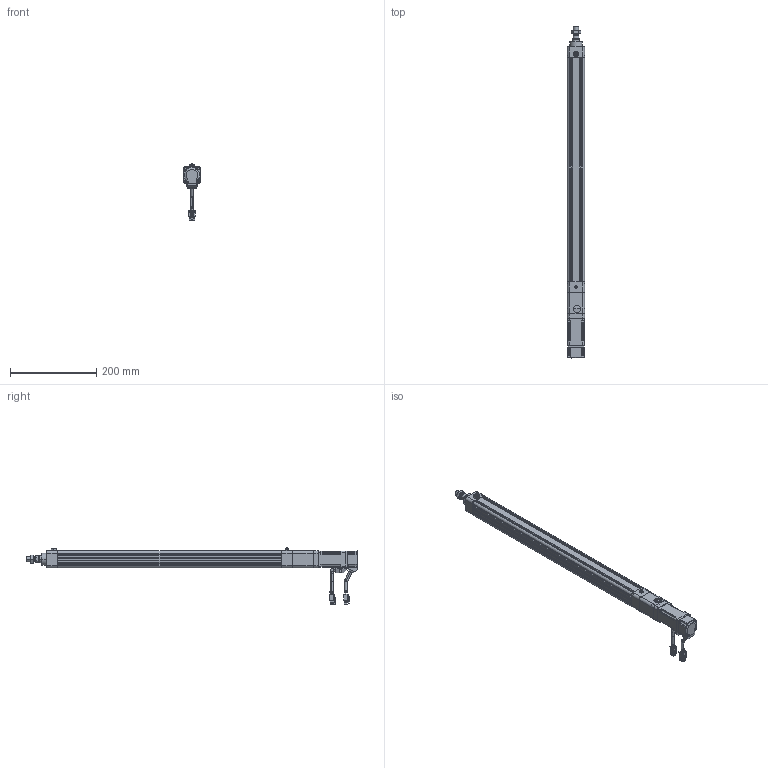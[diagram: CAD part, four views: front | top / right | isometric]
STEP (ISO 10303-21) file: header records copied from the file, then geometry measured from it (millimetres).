
FILE_DESCRIPTION((''),'2;1');
FILE_NAME('HE32-D-100-2-5_ASM','2020-05-09T',('ASUS20200'),(''),'CREO PARAMETRIC BY PTC INC, 2014190','CREO PARAMETRIC BY PTC INC, 2014190','');
FILE_SCHEMA(('CONFIG_CONTROL_DESIGN'));
Length unit declared in the file: millimetre
Products named in the file (22): HE32-001-X1; HE32-002-X1; HE32-003-X1; HE32-007-X1; HE32-008-X1; 1_1; 2_1; 3_1; 4_1; 5_1; 6_1; 7_1; ASM0001_ASM; TF1622-20; SLM-01; YZ-M6X1; SKT-13; HE32-005-X1; HE32-004-X1; LGLM-M6-22; HE32-D-P-008-X1; HE32-D-100-2-5_ASM
Assembly tree (24 placements, depth 3):
  HE32-D-100-2-5_ASM
    HE32-001-X1
    HE32-002-X1
    HE32-003-X1
    HE32-007-X1
    HE32-008-X1
    ASM0001_ASM
      1_1
      2_1
      3_1
      4_1
      5_1
      6_1
      7_1
    TF1622-20
    SLM-01
    YZ-M6X1
    SKT-13
    HE32-005-X1
    HE32-004-X1
    LGLM-M6-22  x4
    HE32-D-P-008-X1
Bounding box: 40 x 772.03 x 134.2 mm (x, y, z)
Volume: 690349.9 mm3; surface area: 297186.2 mm2
Topology: 23 solids, 44 shells, 1871 faces, 4555 edges, 2840 vertices
Faces by surface type: plane 812, cylinder 567, cone 440, torus 22, bspline 18, sphere 12
Entity records: 54031 total; most frequent: CARTESIAN_POINT 10718, DIRECTION 9398, ORIENTED_EDGE 8590, EDGE_CURVE 4331, AXIS2_PLACEMENT_3D 3452, VERTEX_POINT 2711, VECTOR 2494, LINE 2494
